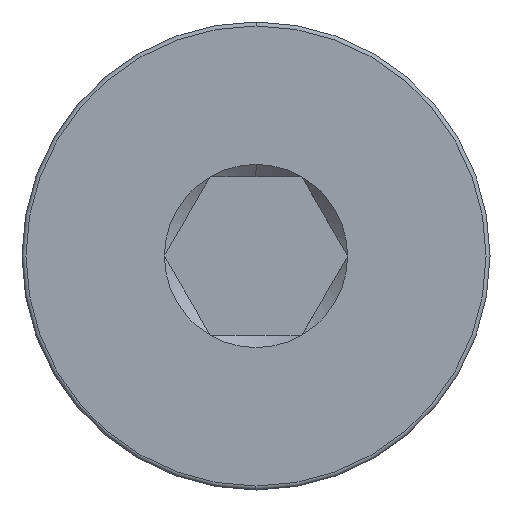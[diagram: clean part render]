
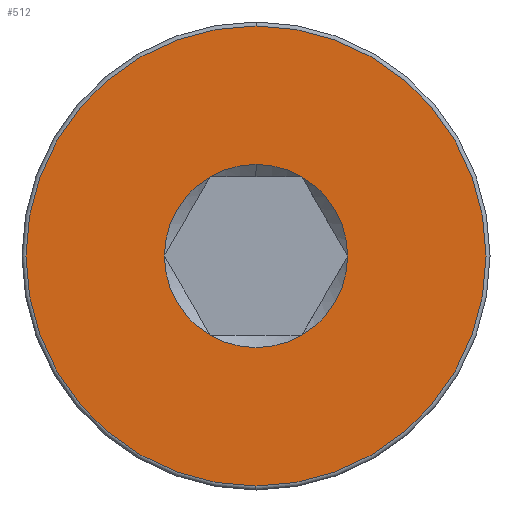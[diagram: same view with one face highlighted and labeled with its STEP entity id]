
A CAD part, left-side view. The second image highlights one B-rep face of the part: STEP entity #512.
In plain terms, the highlighted planar face has unit normal (-1, 0, 0).
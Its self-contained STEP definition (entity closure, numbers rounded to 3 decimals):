
#26 = EDGE_CURVE ( 'NONE', #697, #641, #224, .T. ) ;
#27 = VERTEX_POINT ( 'NONE', #493 ) ;
#35 = EDGE_CURVE ( 'NONE', #27, #697, #391, .T. ) ;
#57 = ORIENTED_EDGE ( 'NONE', *, *, #567, .T. ) ;
#60 = CARTESIAN_POINT ( 'NONE',  ( 0., 0., 0. ) ) ;
#67 = AXIS2_PLACEMENT_3D ( 'NONE', #764, #90, #577 ) ;
#81 = EDGE_CURVE ( 'NONE', #717, #596, #314, .T. ) ;
#90 = DIRECTION ( 'NONE',  ( -1., 0., 0. ) ) ;
#106 = AXIS2_PLACEMENT_3D ( 'NONE', #159, #456, #273 ) ;
#116 = EDGE_CURVE ( 'NONE', #641, #382, #522, .T. ) ;
#117 = ORIENTED_EDGE ( 'NONE', *, *, #26, .T. ) ;
#131 = DIRECTION ( 'NONE',  ( 0., 0., 1. ) ) ;
#134 = ORIENTED_EDGE ( 'NONE', *, *, #715, .T. ) ;
#137 = DIRECTION ( 'NONE',  ( 0., 0., -1. ) ) ;
#153 = CARTESIAN_POINT ( 'NONE',  ( 0., 1.155, 2. ) ) ;
#154 = CARTESIAN_POINT ( 'NONE',  ( 0., 0., 5.8 ) ) ;
#159 = CARTESIAN_POINT ( 'NONE',  ( 0., 0., 0. ) ) ;
#164 = CARTESIAN_POINT ( 'NONE',  ( 0., 2.309, 0. ) ) ;
#171 = DIRECTION ( 'NONE',  ( -1., 0., 0. ) ) ;
#174 = ORIENTED_EDGE ( 'NONE', *, *, #374, .T. ) ;
#180 = PLANE ( 'NONE',  #458 ) ;
#182 = CARTESIAN_POINT ( 'NONE',  ( 0., 0., 0. ) ) ;
#192 = CARTESIAN_POINT ( 'NONE',  ( 0., 0., 0. ) ) ;
#209 = ORIENTED_EDGE ( 'NONE', *, *, #116, .T. ) ;
#211 = CIRCLE ( 'NONE', #106, 2.309 ) ;
#224 = CIRCLE ( 'NONE', #678, 2.309 ) ;
#233 = DIRECTION ( 'NONE',  ( 0., 0., -1. ) ) ;
#234 = EDGE_LOOP ( 'NONE', ( #632, #174 ) ) ;
#238 = DIRECTION ( 'NONE',  ( 1., 0., 0. ) ) ;
#250 = CIRCLE ( 'NONE', #703, 5.8 ) ;
#273 = DIRECTION ( 'NONE',  ( 0., 0., -1. ) ) ;
#277 = CARTESIAN_POINT ( 'NONE',  ( 0., 0., 0. ) ) ;
#279 = VERTEX_POINT ( 'NONE', #154 ) ;
#298 = AXIS2_PLACEMENT_3D ( 'NONE', #616, #754, #137 ) ;
#302 = DIRECTION ( 'NONE',  ( 0., 0., -1. ) ) ;
#311 = AXIS2_PLACEMENT_3D ( 'NONE', #277, #778, #516 ) ;
#314 = CIRCLE ( 'NONE', #614, 2.309 ) ;
#326 = AXIS2_PLACEMENT_3D ( 'NONE', #60, #647, #302 ) ;
#362 = VERTEX_POINT ( 'NONE', #646 ) ;
#374 = EDGE_CURVE ( 'NONE', #362, #279, #375, .T. ) ;
#375 = CIRCLE ( 'NONE', #67, 5.8 ) ;
#382 = VERTEX_POINT ( 'NONE', #580 ) ;
#388 = EDGE_CURVE ( 'NONE', #596, #27, #211, .T. ) ;
#391 = CIRCLE ( 'NONE', #799, 2.309 ) ;
#418 = CARTESIAN_POINT ( 'NONE',  ( 0., 0., 0. ) ) ;
#422 = DIRECTION ( 'NONE',  ( 0., 0., -1. ) ) ;
#424 = CARTESIAN_POINT ( 'NONE',  ( 0., 0., 0. ) ) ;
#425 = DIRECTION ( 'NONE',  ( 1., 0., 0. ) ) ;
#438 = DIRECTION ( 'NONE',  ( -1., 0., 0. ) ) ;
#447 = CARTESIAN_POINT ( 'NONE',  ( 0., 0., 2.309 ) ) ;
#456 = DIRECTION ( 'NONE',  ( 1., 0., 0. ) ) ;
#458 = AXIS2_PLACEMENT_3D ( 'NONE', #424, #171, #594 ) ;
#493 = CARTESIAN_POINT ( 'NONE',  ( 0., -1.155, 2. ) ) ;
#500 = VERTEX_POINT ( 'NONE', #164 ) ;
#502 = CARTESIAN_POINT ( 'NONE',  ( 0., -2.309, 0. ) ) ;
#510 = ORIENTED_EDGE ( 'NONE', *, *, #35, .T. ) ;
#512 = ADVANCED_FACE ( 'NONE', ( #737, #789 ), #180, .T. ) ;
#516 = DIRECTION ( 'NONE',  ( 0., 0., -1. ) ) ;
#518 = ORIENTED_EDGE ( 'NONE', *, *, #81, .T. ) ;
#522 = CIRCLE ( 'NONE', #326, 2.309 ) ;
#549 = CARTESIAN_POINT ( 'NONE',  ( 0., -1.155, -2. ) ) ;
#556 = CIRCLE ( 'NONE', #311, 2.309 ) ;
#567 = EDGE_CURVE ( 'NONE', #500, #717, #639, .T. ) ;
#577 = DIRECTION ( 'NONE',  ( 0., 0., 1. ) ) ;
#580 = CARTESIAN_POINT ( 'NONE',  ( 0., 1.155, -2. ) ) ;
#594 = DIRECTION ( 'NONE',  ( 0., 0., 1. ) ) ;
#596 = VERTEX_POINT ( 'NONE', #447 ) ;
#614 = AXIS2_PLACEMENT_3D ( 'NONE', #182, #238, #422 ) ;
#616 = CARTESIAN_POINT ( 'NONE',  ( 0., 0., 0. ) ) ;
#632 = ORIENTED_EDGE ( 'NONE', *, *, #705, .T. ) ;
#639 = CIRCLE ( 'NONE', #298, 2.309 ) ;
#641 = VERTEX_POINT ( 'NONE', #549 ) ;
#646 = CARTESIAN_POINT ( 'NONE',  ( 0., 0., -5.8 ) ) ;
#647 = DIRECTION ( 'NONE',  ( 1., 0., 0. ) ) ;
#678 = AXIS2_PLACEMENT_3D ( 'NONE', #418, #794, #790 ) ;
#697 = VERTEX_POINT ( 'NONE', #502 ) ;
#700 = ORIENTED_EDGE ( 'NONE', *, *, #388, .T. ) ;
#703 = AXIS2_PLACEMENT_3D ( 'NONE', #192, #438, #131 ) ;
#705 = EDGE_CURVE ( 'NONE', #279, #362, #250, .T. ) ;
#715 = EDGE_CURVE ( 'NONE', #382, #500, #556, .T. ) ;
#717 = VERTEX_POINT ( 'NONE', #153 ) ;
#737 = FACE_OUTER_BOUND ( 'NONE', #234, .T. ) ;
#754 = DIRECTION ( 'NONE',  ( 1., 0., 0. ) ) ;
#756 = EDGE_LOOP ( 'NONE', ( #57, #518, #700, #510, #117, #209, #134 ) ) ;
#764 = CARTESIAN_POINT ( 'NONE',  ( 0., 0., 0. ) ) ;
#776 = CARTESIAN_POINT ( 'NONE',  ( 0., 0., 0. ) ) ;
#778 = DIRECTION ( 'NONE',  ( 1., 0., 0. ) ) ;
#789 = FACE_BOUND ( 'NONE', #756, .T. ) ;
#790 = DIRECTION ( 'NONE',  ( 0., 0., -1. ) ) ;
#794 = DIRECTION ( 'NONE',  ( 1., 0., 0. ) ) ;
#799 = AXIS2_PLACEMENT_3D ( 'NONE', #776, #425, #233 ) ;
